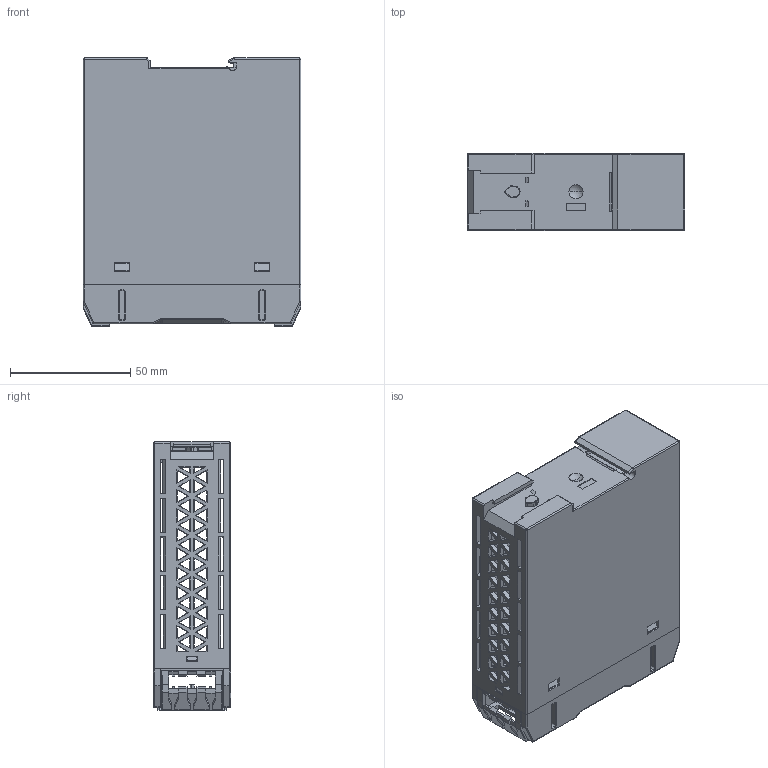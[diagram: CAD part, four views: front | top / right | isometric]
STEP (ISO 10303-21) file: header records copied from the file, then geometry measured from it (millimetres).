
FILE_DESCRIPTION (( 'STEP AP203' ), '1' );
FILE_NAME ('ZDR5-60.STEP', '2026-07-27T11:04:26', ( '' ), ( '' ), 'SwSTEP 2.0', 'SolidWorks 2019', '' );
FILE_SCHEMA (( 'CONFIG_CONTROL_DESIGN' ));
Length unit declared in the file: millimetre
Products named in the file (1): ZDR5-60
Bounding box: 90.54 x 32.19 x 111.46 mm (x, y, z)
Volume: 50670.3 mm3; surface area: 67019.3 mm2
Topology: 2 solids, 2 shells, 1243 faces, 3546 edges, 2295 vertices
Faces by surface type: plane 967, cylinder 185, cone 30, torus 29, sphere 16, bspline 16
Entity records: 40481 total; most frequent: CARTESIAN_POINT 7804, ORIENTED_EDGE 7068, DIRECTION 6202, EDGE_CURVE 3534, LINE 3052, VECTOR 3052, VERTEX_POINT 2295, AXIS2_PLACEMENT_3D 1575
